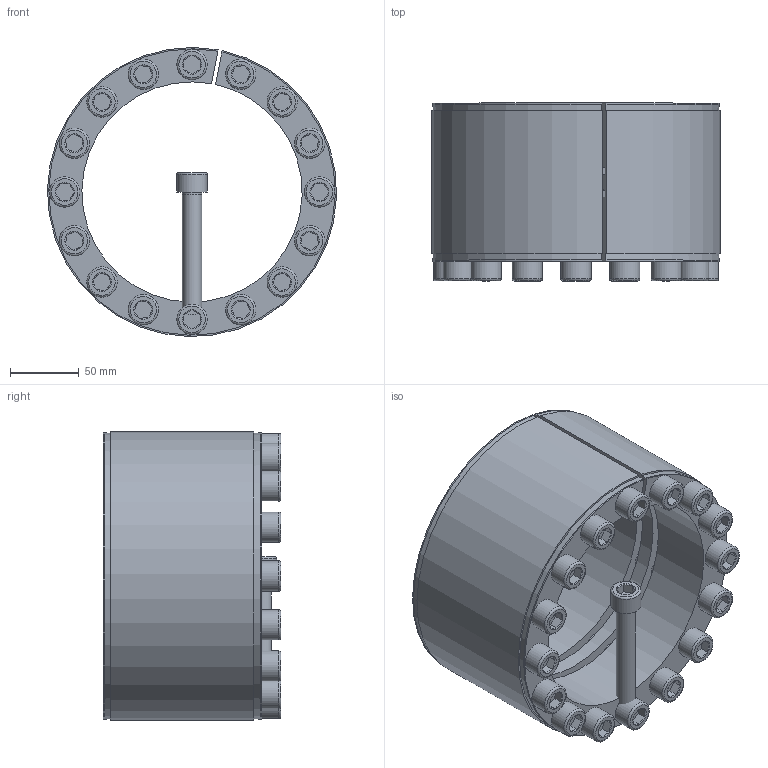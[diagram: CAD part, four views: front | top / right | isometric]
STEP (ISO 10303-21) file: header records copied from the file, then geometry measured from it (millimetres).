
FILE_DESCRIPTION( ( 'Unknown' ), '1' );
FILE_NAME( 'C:/Dokumente und Einstellungen/Sven/Desktop/homepage/cad - homepage/KBS11/KBS 11 - 160 x 210.stp', 'Unknown', ( 'Unknown' ), ( 'Unknown' ), 'XStep 1.0', 'Unknown', ' ' );
FILE_SCHEMA( ( 'automotive_design' ) );
Length unit declared in the file: millimetre
Products named in the file (3): Assem1; KBS 11 - 160 x 210; ISO EN DIN 4762 M14x90
Bounding box: 209.94 x 129 x 209.97 mm (x, y, z)
Volume: 2849350.7 mm3; surface area: 649746.1 mm2
Topology: 19 solids, 19 shells, 561 faces, 1189 edges, 734 vertices
Faces by surface type: plane 224, cylinder 176, cone 127, torus 34
Full cylindrical faces by diameter (mm): 12 x17, 14 x130, 22 x17
Entity records: 3542 total; most frequent: CARTESIAN_POINT 533, DIRECTION 524, ORIENTED_EDGE 370, EDGE_LOOP 248, AXIS2_PLACEMENT_3D 242, EDGE_CURVE 185, VERTEX_POINT 155, FACE_OUTER_BOUND 147
